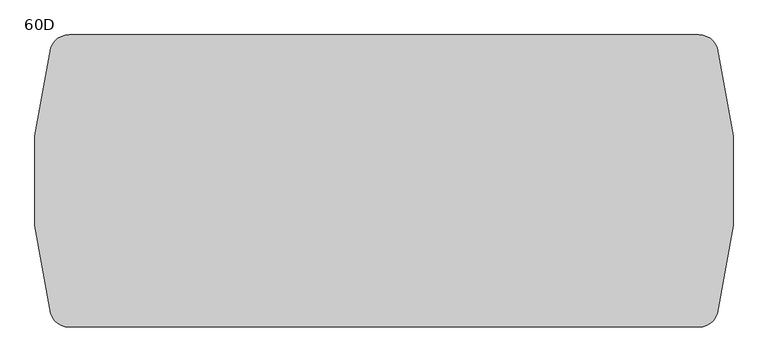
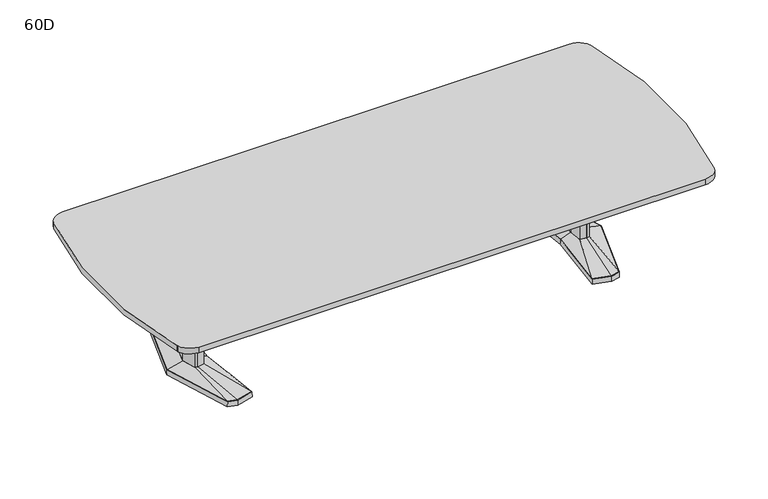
"""IFC4 building model written with IfcOpenShell, lengths in millimetres: furniture geometry, Coalesse_AM_Table_Conference_ETable2_SoftRadiused_12ft_AluminiumBase : 60D."""

from ifc_helpers import new_model, si_unit, point, frame, frame_2d, origin, place, context, project, spatial, polyline, circle_curve, trimmed, segment, composite_curve, outline, extrude, faceted_brep, source, transform, mapped, element, save
from ifc_brep_helpers import plane_surface, spline_surface, advanced_brep


def furniture_60d_025edd58(model_context):
    return source(origin(), model_context, "Body", "SolidModel", [
        faceted_brep([(1210.6306835, 455.5848221, 38.1), (1101.0531277, 426.2263816, 38.1), (1142.2163717, 0.0, 38.1), (1101.0531277, -426.2263816, 38.1), (1210.6306835, -455.5848221, 38.1), (1266.7570396, -440.5478297, 38.1), (1404.0684269, 0.0, 38.1), (1266.7570396, 440.5478297, 38.1), (1210.6306754, 457.2283104, 3.175), (1268.0124472, 441.8549756, 3.175), (1405.73125, 0.0, 3.175), (1268.0124472, -441.8549756, 3.175), (1210.6306754, -457.2283104, 3.175), (1099.34375, -427.4118891, 3.175), (1140.6214856, 0.0, 3.175), (1099.34375, 427.4118891, 3.175), (1214.220115, 428.3273875, 3.175), (1109.1718228, 402.1057253, 3.175), (1117.290518, 377.985069, 3.175), (1217.8095466, 401.0699529, 3.175), (1268.3691725, 387.524361, 3.175), (1267.5631061, 414.0360954, 3.175), (1214.220115, -428.3273875, 3.175), (1267.5631061, -414.0360954, 3.175), (1268.3691725, -387.524361, 3.175), (1217.8095466, -401.0699529, 3.175), (1117.290518, -377.985069, 3.175), (1109.1718228, -402.1057253, 3.175), (1340.8153621, 0.0, 3.175), (1308.5459611, 120.4193755, 3.175), (1259.8987222, 133.471665, 3.175), (1180.0180526, 119.4176561, 3.175), (1168.8868466, 0.0, 3.175), (1180.0180526, -119.4176561, 3.175), (1259.8987222, -133.471665, 3.175), (1308.5459611, -120.4193755, 3.175), (1214.220115, 428.3273875, 0.0), (1267.5631061, 414.0360954, 0.0), (1268.3691725, 387.524361, 0.0), (1217.8095466, 401.0699529, 0.0), (1117.290518, 377.985069, 0.0), (1109.1718228, 402.1057253, 0.0), (1214.220115, -428.3273875, 0.0), (1109.1718228, -402.1057253, 0.0), (1117.290518, -377.985069, 0.0), (1217.8095466, -401.0699529, 0.0), (1268.3691725, -387.524361, 0.0), (1267.5631061, -414.0360954, 0.0), (1340.8153621, 0.0, 0.0), (1308.5459611, -120.4193755, 0.0), (1259.8987222, -133.471665, 0.0), (1180.0180526, -119.4176561, 0.0), (1168.8868466, 0.0, 0.0), (1180.0180526, 119.4176561, 0.0), (1259.8987222, 133.471665, 0.0), (1308.5459611, 120.4193755, 0.0)], [[[0, 1, 2, 3, 4, 5, 6, 7]], [[8, 9, 10, 11, 12, 13, 14, 15], [16, 17, 18, 19, 20, 21], [22, 23, 24, 25, 26, 27], [28, 29, 30, 31, 32, 33, 34, 35]], [[7, 9, 8, 0]], [[6, 10, 9, 7]], [[5, 11, 10, 6]], [[4, 12, 11, 5]], [[3, 13, 12, 4]], [[2, 14, 13, 3]], [[1, 15, 14, 2]], [[0, 8, 15, 1]], [[36, 37, 38, 39, 40, 41]], [[42, 43, 44, 45, 46, 47]], [[48, 49, 50, 51, 52, 53, 54, 55]], [[36, 16, 21, 37]], [[37, 21, 20, 38]], [[38, 20, 19, 39]], [[39, 19, 18, 40]], [[40, 18, 17, 41]], [[41, 17, 16, 36]], [[42, 22, 27, 43]], [[43, 27, 26, 44]], [[44, 26, 25, 45]], [[45, 25, 24, 46]], [[46, 24, 23, 47]], [[47, 23, 22, 42]], [[48, 28, 35, 49]], [[49, 35, 34, 50]], [[50, 34, 33, 51]], [[51, 33, 32, 52]], [[52, 32, 31, 53]], [[53, 31, 30, 54]], [[54, 30, 29, 55]], [[55, 29, 28, 48]]]),
        faceted_brep([(1301.3710836, 0.0, 698.5), (1277.4358546, 89.3188359, 698.5), (1260.5824984, 93.8406728, 698.5), (1258.1826511, 94.4845635, 698.5), (1215.255146, 86.9320037, 698.5), (1207.1520056, 0.0, 698.5), (1215.255146, -86.9320037, 698.5), (1258.1826511, -94.4845635, 698.5), (1260.5824984, -93.8406728, 698.5), (1277.4358546, -89.3188359, 698.5), (1301.3710836, 0.0, 63.5), (1277.4358546, -89.3188359, 63.5), (1260.5824984, -93.8406728, 63.5), (1258.1826511, -94.4845635, 63.5), (1215.255146, -86.9320037, 63.5), (1207.1520056, 0.0, 63.5), (1215.255146, 86.9320037, 63.5), (1258.1826511, 94.4845635, 63.5), (1260.5824984, 93.8406728, 63.5), (1277.4358546, 89.3188359, 63.5)], [[[0, 1, 2, 3, 4, 5, 6, 7, 8, 9]], [[10, 11, 12, 13, 14, 15, 16, 17, 18, 19]], [[9, 11, 10, 0]], [[8, 12, 11, 9]], [[7, 13, 12, 8]], [[6, 14, 13, 7]], [[5, 15, 14, 6]], [[4, 16, 15, 5]], [[3, 17, 16, 4]], [[2, 18, 17, 3]], [[1, 19, 18, 2]], [[0, 10, 19, 1]]]),
        advanced_brep(
        [(1258.1826511, 94.4845635, 63.5), (1215.255146, 86.9320037, 63.5), (1207.1520056, 0.0, 63.5), (1215.255146, -86.9320037, 63.5), (1258.1826511, -94.4845635, 63.5), (1277.4358546, -89.3188359, 63.5), (1301.3710836, 0.0, 63.5), (1277.4358546, 89.3188359, 63.5), (1210.6306835, 455.5848221, 38.1), (1266.7570396, 440.5478297, 38.1), (1404.0684269, 0.0, 38.1), (1266.7570396, -440.5478297, 38.1), (1210.6306835, -455.5848221, 38.1), (1101.0531277, -426.2263816, 38.1), (1142.2163717, 0.0, 38.1), (1101.0531277, 426.2263816, 38.1)],
        [
            (0, 1),
            (1, 2),
            (2, 3),
            (3, 4),
            (4, 5),
            (5, 6),
            (6, 7),
            (7, 0),
            (8, 9),
            (9, 10),
            (10, 11),
            (11, 12),
            (12, 13),
            (13, 14),
            (14, 15),
            (15, 8),
            (8, 0),
            (7, 9),
            (6, 10),
            (5, 11),
            (4, 12),
            (3, 13),
            (2, 14),
            (1, 15),
        ],
        [
            plane_surface(frame((1251.2837991, 0.0, 63.5), z_axis=(0.0, 0.0, 1.0), x_axis=(-0.25884244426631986, -0.9659195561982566, 0.0))),
            plane_surface(frame((1212.8958125, 0.0, 38.1), z_axis=(0.0, 0.0, -1.0), x_axis=(-0.25884244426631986, -0.9659195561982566, 0.0))),
            spline_surface(1, 1, [[(1210.6306835, 455.5848221, 38.1), (1266.7570396, 440.5478297, 38.1)], [(1258.1826511, 94.4845635, 63.5), (1277.4358546, 89.3188359, 63.5)]], [2, 2], [2, 2], [0.0, 1.0], [0.0, 1.0]),
            spline_surface(1, 1, [[(1266.7570396, 440.5478297, 38.1), (1404.0684269, 0.0, 38.1)], [(1277.4358546, 89.3188359, 63.5), (1301.3710836, 0.0, 63.5)]], [2, 2], [2, 2], [0.0, 1.0], [0.0, 1.0]),
            spline_surface(1, 1, [[(1404.0684269, 0.0, 38.1), (1266.7570396, -440.5478297, 38.1)], [(1301.3710836, 0.0, 63.5), (1277.4358546, -89.3188359, 63.5)]], [2, 2], [2, 2], [0.0, 1.0], [0.0, 1.0]),
            spline_surface(1, 1, [[(1266.7570396, -440.5478297, 38.1), (1210.6306835, -455.5848221, 38.1)], [(1277.4358546, -89.3188359, 63.5), (1258.1826511, -94.4845635, 63.5)]], [2, 2], [2, 2], [0.0, 1.0], [0.0, 1.0]),
            spline_surface(1, 1, [[(1210.6306835, -455.5848221, 38.1), (1101.0531277, -426.2263816, 38.1)], [(1258.1826511, -94.4845635, 63.5), (1215.255146, -86.9320037, 63.5)]], [2, 2], [2, 2], [0.0, 1.0], [0.0, 1.0]),
            spline_surface(1, 1, [[(1101.0531277, -426.2263816, 38.1), (1142.2163717, 0.0, 38.1)], [(1215.255146, -86.9320037, 63.5), (1207.1520056, 0.0, 63.5)]], [2, 2], [2, 2], [0.0, 1.0], [0.0, 1.0]),
            spline_surface(1, 1, [[(1142.2163717, 0.0, 38.1), (1101.0531277, 426.2263816, 38.1)], [(1207.1520056, 0.0, 63.5), (1215.255146, 86.9320037, 63.5)]], [2, 2], [2, 2], [0.0, 1.0], [0.0, 1.0]),
            spline_surface(1, 1, [[(1101.0531277, 426.2263816, 38.1), (1210.6306835, 455.5848221, 38.1)], [(1215.255146, 86.9320037, 63.5), (1258.1826511, 94.4845635, 63.5)]], [2, 2], [2, 2], [0.0, 1.0], [0.0, 1.0]),
        ],
        [
            (0, [[1, 2, 3, 4, 5, 6, 7, 8]]),
            (1, [[9, 10, 11, 12, 13, 14, 15, 16]]),
            (2, [[17, -8, 18, -9]]),
            (3, [[-18, -7, 19, -10]]),
            (4, [[-19, -6, 20, -11]]),
            (5, [[-20, -5, 21, -12]]),
            (6, [[-21, -4, 22, -13]]),
            (7, [[-22, -3, 23, -14]]),
            (8, [[-23, -2, 24, -15]]),
            (9, [[-24, -1, -17, -16]]),
        ],
    ),
        faceted_brep([(-1210.6306835, 455.5848221, 38.1), (-1266.7570396, 440.5478297, 38.1), (-1404.0684269, 0.0, 38.1), (-1266.7570396, -440.5478297, 38.1), (-1210.6306835, -455.5848221, 38.1), (-1101.0531277, -426.2263816, 38.1), (-1142.2163717, 0.0, 38.1), (-1101.0531277, 426.2263816, 38.1), (-1210.6306754, 457.2283104, 3.175), (-1099.34375, 427.4118891, 3.175), (-1140.6214856, 0.0, 3.175), (-1099.34375, -427.4118891, 3.175), (-1210.6306754, -457.2283104, 3.175), (-1268.0124472, -441.8549756, 3.175), (-1405.73125, 0.0, 3.175), (-1268.0124472, 441.8549756, 3.175), (-1214.220115, 428.3273875, 3.175), (-1267.5631061, 414.0360954, 3.175), (-1268.3691725, 387.524361, 3.175), (-1217.8095466, 401.0699529, 3.175), (-1117.290518, 377.985069, 3.175), (-1109.1718228, 402.1057253, 3.175), (-1214.220115, -428.3273875, 3.175), (-1109.1718228, -402.1057253, 3.175), (-1117.290518, -377.985069, 3.175), (-1217.8095466, -401.0699529, 3.175), (-1268.3691725, -387.524361, 3.175), (-1267.5631061, -414.0360954, 3.175), (-1340.8153621, 0.0, 3.175), (-1308.5459611, -120.4193755, 3.175), (-1259.8987222, -133.471665, 3.175), (-1180.0180526, -119.4176561, 3.175), (-1168.8868466, 0.0, 3.175), (-1180.0180526, 119.4176561, 3.175), (-1259.8987222, 133.471665, 3.175), (-1308.5459611, 120.4193755, 3.175), (-1214.220115, 428.3273875, 0.0), (-1109.1718228, 402.1057253, 0.0), (-1117.290518, 377.985069, 0.0), (-1217.8095466, 401.0699529, 0.0), (-1268.3691725, 387.524361, 0.0), (-1267.5631061, 414.0360954, 0.0), (-1214.220115, -428.3273875, 0.0), (-1267.5631061, -414.0360954, 0.0), (-1268.3691725, -387.524361, 0.0), (-1217.8095466, -401.0699529, 0.0), (-1117.290518, -377.985069, 0.0), (-1109.1718228, -402.1057253, 0.0), (-1340.8153621, 0.0, 0.0), (-1308.5459611, 120.4193755, 0.0), (-1259.8987222, 133.471665, 0.0), (-1180.0180526, 119.4176561, 0.0), (-1168.8868466, 0.0, 0.0), (-1180.0180526, -119.4176561, 0.0), (-1259.8987222, -133.471665, 0.0), (-1308.5459611, -120.4193755, 0.0)], [[[0, 1, 2, 3, 4, 5, 6, 7]], [[8, 9, 10, 11, 12, 13, 14, 15], [16, 17, 18, 19, 20, 21], [22, 23, 24, 25, 26, 27], [28, 29, 30, 31, 32, 33, 34, 35]], [[1, 0, 8, 15]], [[2, 1, 15, 14]], [[3, 2, 14, 13]], [[4, 3, 13, 12]], [[5, 4, 12, 11]], [[6, 5, 11, 10]], [[7, 6, 10, 9]], [[0, 7, 9, 8]], [[36, 37, 38, 39, 40, 41]], [[42, 43, 44, 45, 46, 47]], [[48, 49, 50, 51, 52, 53, 54, 55]], [[36, 41, 17, 16]], [[41, 40, 18, 17]], [[40, 39, 19, 18]], [[39, 38, 20, 19]], [[38, 37, 21, 20]], [[37, 36, 16, 21]], [[42, 47, 23, 22]], [[47, 46, 24, 23]], [[46, 45, 25, 24]], [[45, 44, 26, 25]], [[44, 43, 27, 26]], [[43, 42, 22, 27]], [[48, 55, 29, 28]], [[55, 54, 30, 29]], [[54, 53, 31, 30]], [[53, 52, 32, 31]], [[52, 51, 33, 32]], [[51, 50, 34, 33]], [[50, 49, 35, 34]], [[49, 48, 28, 35]]]),
        faceted_brep([(-1301.3710836, 0.0, 698.5), (-1277.4358546, -89.3188359, 698.5), (-1260.5824984, -93.8406728, 698.5), (-1258.1826511, -94.4845635, 698.5), (-1215.255146, -86.9320037, 698.5), (-1207.1520056, 0.0, 698.5), (-1215.255146, 86.9320037, 698.5), (-1258.1826511, 94.4845635, 698.5), (-1260.5824984, 93.8406728, 698.5), (-1277.4358546, 89.3188359, 698.5), (-1301.3710836, 0.0, 63.5), (-1277.4358546, 89.3188359, 63.5), (-1260.5824984, 93.8406728, 63.5), (-1258.1826511, 94.4845635, 63.5), (-1215.255146, 86.9320037, 63.5), (-1207.1520056, 0.0, 63.5), (-1215.255146, -86.9320037, 63.5), (-1258.1826511, -94.4845635, 63.5), (-1260.5824984, -93.8406728, 63.5), (-1277.4358546, -89.3188359, 63.5)], [[[0, 1, 2, 3, 4, 5, 6, 7, 8, 9]], [[10, 11, 12, 13, 14, 15, 16, 17, 18, 19]], [[1, 0, 10, 19]], [[2, 1, 19, 18]], [[3, 2, 18, 17]], [[4, 3, 17, 16]], [[5, 4, 16, 15]], [[6, 5, 15, 14]], [[7, 6, 14, 13]], [[8, 7, 13, 12]], [[9, 8, 12, 11]], [[0, 9, 11, 10]]]),
        advanced_brep(
        [(-1258.1826511, 94.4845635, 63.5), (-1277.4358546, 89.3188359, 63.5), (-1301.3710836, 0.0, 63.5), (-1277.4358546, -89.3188359, 63.5), (-1258.1826511, -94.4845635, 63.5), (-1215.255146, -86.9320037, 63.5), (-1207.1520056, 0.0, 63.5), (-1215.255146, 86.9320037, 63.5), (-1210.6306835, 455.5848221, 38.1), (-1101.0531277, 426.2263816, 38.1), (-1142.2163717, 0.0, 38.1), (-1101.0531277, -426.2263816, 38.1), (-1210.6306835, -455.5848221, 38.1), (-1266.7570396, -440.5478297, 38.1), (-1404.0684269, 0.0, 38.1), (-1266.7570396, 440.5478297, 38.1)],
        [
            (0, 1),
            (1, 2),
            (2, 3),
            (3, 4),
            (4, 5),
            (5, 6),
            (6, 7),
            (7, 0),
            (8, 9),
            (9, 10),
            (10, 11),
            (11, 12),
            (12, 13),
            (13, 14),
            (14, 15),
            (15, 8),
            (15, 1),
            (0, 8),
            (14, 2),
            (13, 3),
            (12, 4),
            (11, 5),
            (10, 6),
            (9, 7),
        ],
        [
            plane_surface(frame((-1251.2837991, 0.0, 63.5), z_axis=(0.0, 0.0, 1.0), x_axis=(0.25884244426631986, -0.9659195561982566, 0.0))),
            plane_surface(frame((-1212.8958125, 0.0, 38.1), z_axis=(0.0, 0.0, -1.0), x_axis=(0.25884244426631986, -0.9659195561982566, 0.0))),
            spline_surface(1, 1, [[(-1210.6306835, 455.5848221, 38.1), (-1258.1826511, 94.4845635, 63.5)], [(-1266.7570396, 440.5478297, 38.1), (-1277.4358546, 89.3188359, 63.5)]], [2, 2], [2, 2], [0.0, 1.0], [0.0, 1.0]),
            spline_surface(1, 1, [[(-1266.7570396, 440.5478297, 38.1), (-1277.4358546, 89.3188359, 63.5)], [(-1404.0684269, 0.0, 38.1), (-1301.3710836, 0.0, 63.5)]], [2, 2], [2, 2], [0.0, 1.0], [0.0, 1.0]),
            spline_surface(1, 1, [[(-1404.0684269, 0.0, 38.1), (-1301.3710836, 0.0, 63.5)], [(-1266.7570396, -440.5478297, 38.1), (-1277.4358546, -89.3188359, 63.5)]], [2, 2], [2, 2], [0.0, 1.0], [0.0, 1.0]),
            spline_surface(1, 1, [[(-1266.7570396, -440.5478297, 38.1), (-1277.4358546, -89.3188359, 63.5)], [(-1210.6306835, -455.5848221, 38.1), (-1258.1826511, -94.4845635, 63.5)]], [2, 2], [2, 2], [0.0, 1.0], [0.0, 1.0]),
            spline_surface(1, 1, [[(-1210.6306835, -455.5848221, 38.1), (-1258.1826511, -94.4845635, 63.5)], [(-1101.0531277, -426.2263816, 38.1), (-1215.255146, -86.9320037, 63.5)]], [2, 2], [2, 2], [0.0, 1.0], [0.0, 1.0]),
            spline_surface(1, 1, [[(-1101.0531277, -426.2263816, 38.1), (-1215.255146, -86.9320037, 63.5)], [(-1142.2163717, 0.0, 38.1), (-1207.1520056, 0.0, 63.5)]], [2, 2], [2, 2], [0.0, 1.0], [0.0, 1.0]),
            spline_surface(1, 1, [[(-1142.2163717, 0.0, 38.1), (-1207.1520056, 0.0, 63.5)], [(-1101.0531277, 426.2263816, 38.1), (-1215.255146, 86.9320037, 63.5)]], [2, 2], [2, 2], [0.0, 1.0], [0.0, 1.0]),
            spline_surface(1, 1, [[(-1101.0531277, 426.2263816, 38.1), (-1215.255146, 86.9320037, 63.5)], [(-1210.6306835, 455.5848221, 38.1), (-1258.1826511, 94.4845635, 63.5)]], [2, 2], [2, 2], [0.0, 1.0], [0.0, 1.0]),
        ],
        [
            (0, [[1, 2, 3, 4, 5, 6, 7, 8]]),
            (1, [[9, 10, 11, 12, 13, 14, 15, 16]]),
            (2, [[-16, 17, -1, 18]]),
            (3, [[-15, 19, -2, -17]]),
            (4, [[-14, 20, -3, -19]]),
            (5, [[-13, 21, -4, -20]]),
            (6, [[-12, 22, -5, -21]]),
            (7, [[-11, 23, -6, -22]]),
            (8, [[-10, 24, -7, -23]]),
            (9, [[-9, -18, -8, -24]]),
        ],
    ),
        extrude(outline(composite_curve([segment(trimmed(circle_curve(frame_2d((803.8533608, 5.18e-05)), 2632.6533608), [point((-1736.1539068, -692.2620365))], [point((-1736.1956256, 692.1090495))], False, "CARTESIAN"), True, "CONTINUOUS"), segment(polyline([(-1736.1956256, 692.1090495), (-1735.4453442, 694.2662966)]), True, "CONTINUOUS"), segment(trimmed(circle_curve(frame_2d((-1639.6558148, 660.4)), 101.6), [point((-1735.4453442, 694.2662966))], [point((-1639.6558148, 762.0))], False, "CARTESIAN"), True, "CONTINUOUS"), segment(polyline([(-1639.6558148, 762.0), (1639.6558148, 762.0)]), True, "CONTINUOUS"), segment(trimmed(circle_curve(frame_2d((1639.6558148, 660.4)), 101.6), [point((1639.6558148, 762.0))], [point((1735.4453442, 694.2662966))], False, "CARTESIAN"), True, "CONTINUOUS"), segment(polyline([(1735.4453442, 694.2662966), (1736.1956256, 692.1090495)]), True, "CONTINUOUS"), segment(trimmed(circle_curve(frame_2d((-803.8533608, 5.18e-05)), 2632.6533608), [point((1736.1956256, 692.1090495))], [point((1736.1539068, -692.2620365))], False, "CARTESIAN"), True, "CONTINUOUS"), segment(polyline([(1736.1539068, -692.2620365), (1735.4425275, -694.273651)]), True, "CONTINUOUS"), segment(trimmed(circle_curve(frame_2d((1639.6555469, -660.399927)), 101.600073), [point((1735.4425275, -694.273651))], [point((1639.6555469, -762.0))], False, "CARTESIAN"), True, "CONTINUOUS"), segment(polyline([(1639.6555469, -762.0), (-1639.6555469, -762.0)]), True, "CONTINUOUS"), segment(trimmed(circle_curve(frame_2d((-1639.6555469, -660.399927)), 101.600073), [point((-1639.6555469, -762.0))], [point((-1735.4425275, -694.273651))], False, "CARTESIAN"), True, "CONTINUOUS"), segment(polyline([(-1735.4425275, -694.273651), (-1736.1539068, -692.2620365)]), True, "CONTINUOUS")], self_intersect=False)), frame((0.0, 0.0, 698.5), z_axis=(0.0, 0.0, 1.0), x_axis=(1.0, 0.0, 0.0)), (0.0, 0.0, 1.0), 38.1),
        extrude(outline(polyline([(96.8375, 698.5), (103.1875, 698.5), (103.1875, 476.25), (-103.1875, 476.25), (-103.1875, 698.5), (-96.8375, 698.5), (-96.8375, 482.6), (96.8375, 482.6), (96.8375, 698.5)])), frame((-1207.29375, 0.0, 0.0), z_axis=(1.0, 0.0, 0.0), x_axis=(0.0, 1.0, 0.0)), (0.0, 0.0, 1.0), 2414.5875),
    ])


if __name__ == "__main__":
    model = new_model("IFC4")
    model_context = context("Model", 3, world=origin())
    ifc_project = project(units=[si_unit("LENGTHUNIT", "METRE", prefix="MILLI")], contexts=[model_context])
    site = spatial("IfcSite", under=ifc_project)
    building = spatial("IfcBuilding", under=site)
    placement = place(None, origin())
    furniture_60d_shape = furniture_60d_025edd58(model_context)
    element("IfcFurniture", 1, ObjectType="Coalesse_AM_Table_Conference_ETable2_SoftRadiused_12ft_AluminiumBase : 60D", at=placement, inside=building, context=model_context, shape_type="MappedRepresentation", body=[
        mapped(furniture_60d_shape, transform((0.0, 0.0, 0.0), x_axis=(1.0, 0.0, 0.0), y_axis=(0.0, 1.0, 0.0), z_axis=(0.0, 0.0, 1.0))),
    ])
    save(model, "model.ifc")
